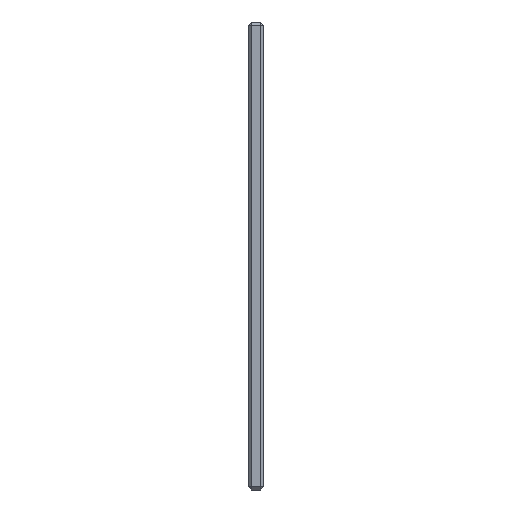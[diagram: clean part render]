
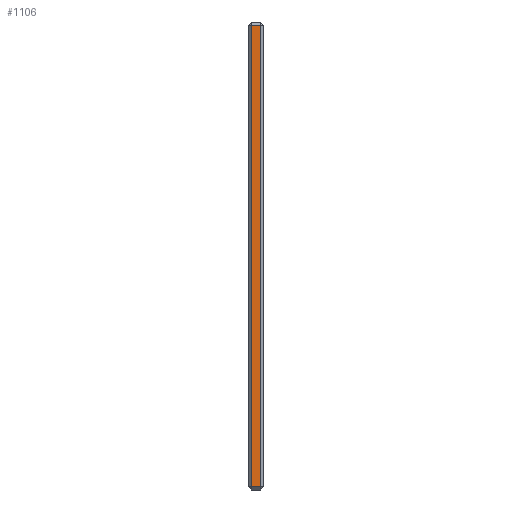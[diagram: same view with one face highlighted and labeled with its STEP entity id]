
A CAD part, left-side view. The second image highlights one B-rep face of the part: STEP entity #1106.
In plain terms, the highlighted planar face has unit normal (-1, 0, 0).
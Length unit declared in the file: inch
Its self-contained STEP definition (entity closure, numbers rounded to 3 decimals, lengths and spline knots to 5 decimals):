
#18 = CARTESIAN_POINT ( 'NONE',  ( -3.875, 0.05, -3.825 ) ) ;
#96 = VECTOR ( 'NONE', #215, 39.37008 ) ;
#129 = VECTOR ( 'NONE', #399, 39.37008 ) ;
#131 = DIRECTION ( 'NONE',  ( 0., -1., 0. ) ) ;
#132 = EDGE_CURVE ( 'NONE', #970, #959, #1123, .T. ) ;
#156 = FACE_OUTER_BOUND ( 'NONE', #1556, .T. ) ;
#215 = DIRECTION ( 'NONE',  ( 0., 0., -1. ) ) ;
#266 = EDGE_CURVE ( 'NONE', #562, #1571, #1253, .T. ) ;
#273 = DIRECTION ( 'NONE',  ( 0., 0., 1. ) ) ;
#315 = ORIENTED_EDGE ( 'NONE', *, *, #132, .T. ) ;
#383 = ORIENTED_EDGE ( 'NONE', *, *, #1171, .T. ) ;
#399 = DIRECTION ( 'NONE',  ( 0., 1., 0. ) ) ;
#416 = CARTESIAN_POINT ( 'NONE',  ( -3.875, 0.25, -3.825 ) ) ;
#461 = LINE ( 'NONE', #1173, #96 ) ;
#503 = CARTESIAN_POINT ( 'NONE',  ( -3.875, 0.05, 3.825 ) ) ;
#562 = VERTEX_POINT ( 'NONE', #950 ) ;
#613 = CARTESIAN_POINT ( 'NONE',  ( -3.875, 0.2, 3.825 ) ) ;
#666 = CARTESIAN_POINT ( 'NONE',  ( -3.875, 0.25, 3.825 ) ) ;
#683 = CARTESIAN_POINT ( 'NONE',  ( -3.875, 0.05, -3.875 ) ) ;
#721 = ORIENTED_EDGE ( 'NONE', *, *, #1255, .T. ) ;
#776 = VECTOR ( 'NONE', #273, 39.37008 ) ;
#777 = CARTESIAN_POINT ( 'NONE',  ( -3.875, 0.25, -3.875 ) ) ;
#920 = DIRECTION ( 'NONE',  ( 0., 0., -1. ) ) ;
#950 = CARTESIAN_POINT ( 'NONE',  ( -3.875, 0.2, -3.825 ) ) ;
#959 = VERTEX_POINT ( 'NONE', #613 ) ;
#970 = VERTEX_POINT ( 'NONE', #503 ) ;
#986 = ORIENTED_EDGE ( 'NONE', *, *, #266, .T. ) ;
#1106 = ADVANCED_FACE ( 'Placement Plane', ( #156 ), #1329, .F. ) ;
#1123 = LINE ( 'NONE', #666, #129 ) ;
#1171 = EDGE_CURVE ( 'NONE', #1571, #970, #1487, .T. ) ;
#1173 = CARTESIAN_POINT ( 'NONE',  ( -3.875, 0.2, -3.875 ) ) ;
#1253 = LINE ( 'NONE', #416, #1539 ) ;
#1255 = EDGE_CURVE ( 'NONE', #959, #562, #461, .T. ) ;
#1329 = PLANE ( 'NONE',  #1459 ) ;
#1459 = AXIS2_PLACEMENT_3D ( 'NONE', #777, #1474, #920 ) ;
#1474 = DIRECTION ( 'NONE',  ( 1., 0., 0. ) ) ;
#1487 = LINE ( 'NONE', #683, #776 ) ;
#1539 = VECTOR ( 'NONE', #131, 39.37008 ) ;
#1556 = EDGE_LOOP ( 'NONE', ( #721, #986, #383, #315 ) ) ;
#1571 = VERTEX_POINT ( 'NONE', #18 ) ;
